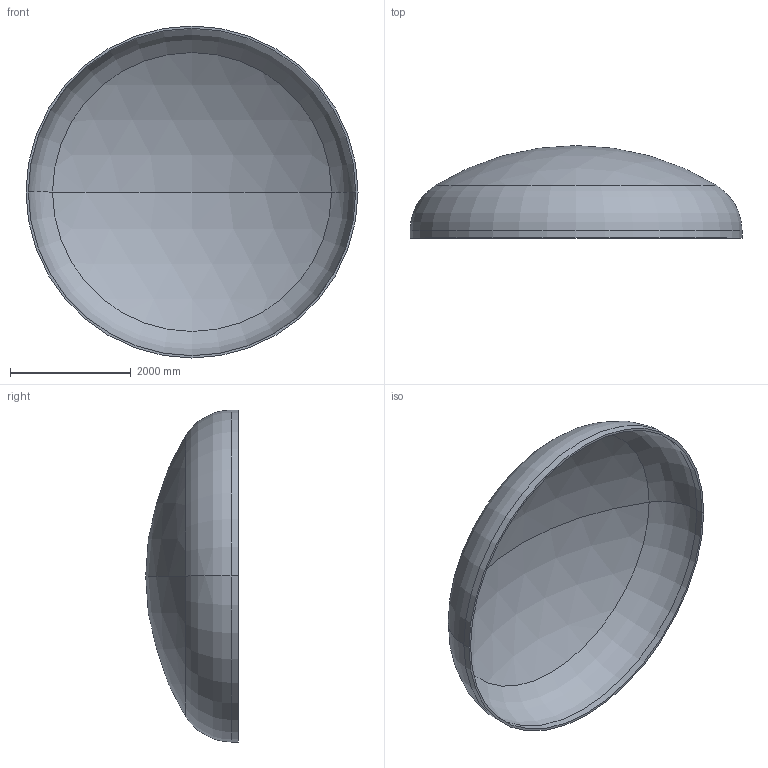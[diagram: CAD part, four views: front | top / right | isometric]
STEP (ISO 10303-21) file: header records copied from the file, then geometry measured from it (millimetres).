
FILE_DESCRIPTION (( 'STEP AP203' ), '1' );
FILE_NAME ('DIN 28013 Korbbogenform_-_Boden DIN 28013 - 5500 x 120 - I - s=38.step', '2016-07-04T10:34:03', ( '' ), ( '' ), 'SwSTEP 2.0', 'SolidWorks 2013', '' );
FILE_SCHEMA (( 'CONFIG_CONTROL_DESIGN' ));
Length unit declared in the file: millimetre
Products named in the file (1): DIN 28013 Korbbogenform_-_Boden DIN 28013 - 5500 x 120 - I - s=38
Bounding box: 5500 x 1532.72 x 5500 mm (x, y, z)
Volume: 1316707665.9 mm3; surface area: 69955457.5 mm2
Topology: 1 solids, 1 shells, 13 faces, 24 edges, 14 vertices
Faces by surface type: torus 4, cylinder 4, sphere 4, plane 1
Entity records: 407 total; most frequent: DIRECTION 72, CARTESIAN_POINT 52, ORIENTED_EDGE 48, AXIS2_PLACEMENT_3D 34, EDGE_CURVE 24, CIRCLE 20, EDGE_LOOP 14, VERTEX_POINT 14
